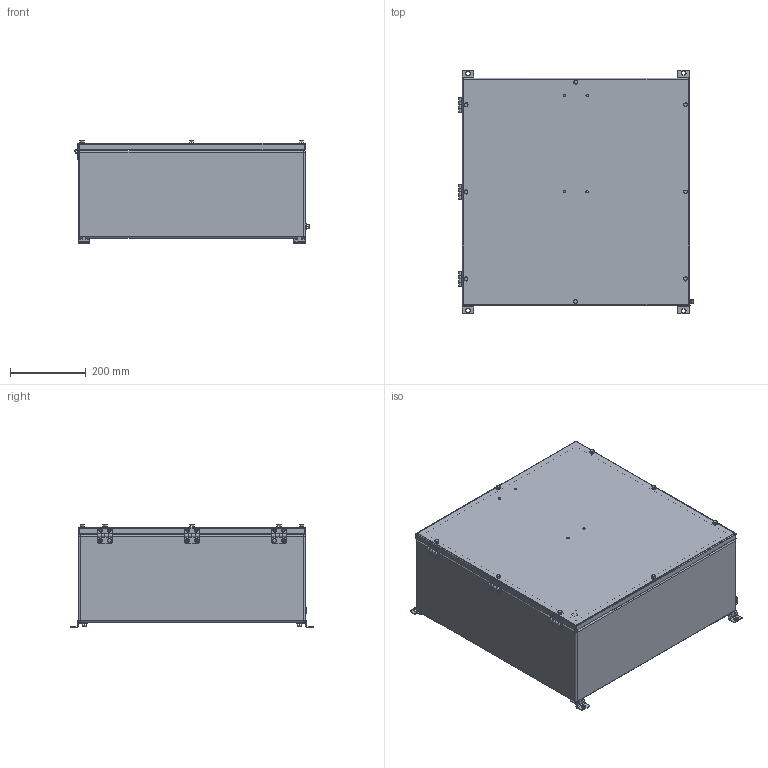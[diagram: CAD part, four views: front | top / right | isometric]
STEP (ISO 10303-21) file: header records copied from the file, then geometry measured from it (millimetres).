
FILE_DESCRIPTION((''),'2;1');
FILE_NAME('\\192.168.5.25\cortem_klient\INVENTOR БАЗА МОДЕЛЕЙ\Актуальная база моделей для отдела продаж\КСРВ-Н\КСРВ-Н606025_М5.stp','2019-04-09T14:17:32',('A.S.Kozlov'),(''),'Autodesk Inventor 2012','Autodesk Inventor 2012','');
FILE_SCHEMA(('CONFIG_CONTROL_DESIGN'));
Length unit declared in the file: millimetre
Products named in the file (1): КСРВ-(параметрическая модель)_Внешний контур_1
Bounding box: 619.19 x 644 x 271.7 mm (x, y, z)
Surface area: 1755849.7 mm2 (no closed solid volume)
Topology: 0 solids, 77 shells, 210 faces, 1100 edges, 930 vertices
Faces by surface type: plane 137, cylinder 63, sphere 10
Full cylindrical faces by diameter (mm): 5.9 x2, 10 x5
Entity records: 11423 total; most frequent: CARTESIAN_POINT 2357, DIRECTION 1847, ORIENTED_EDGE 1279, EDGE_CURVE 1082, VERTEX_POINT 922, AXIS2_PLACEMENT_3D 625, VECTOR 597, LINE 597
